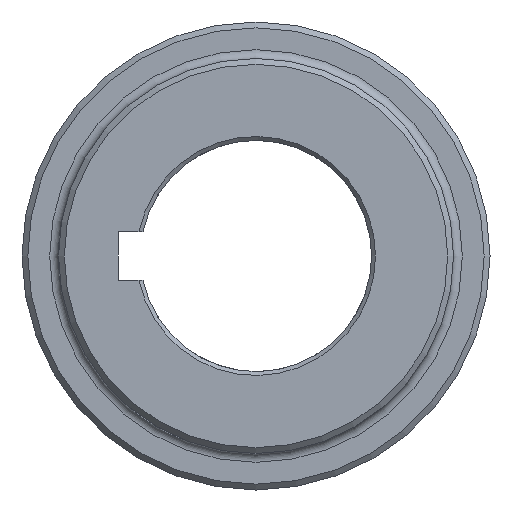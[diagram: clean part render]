
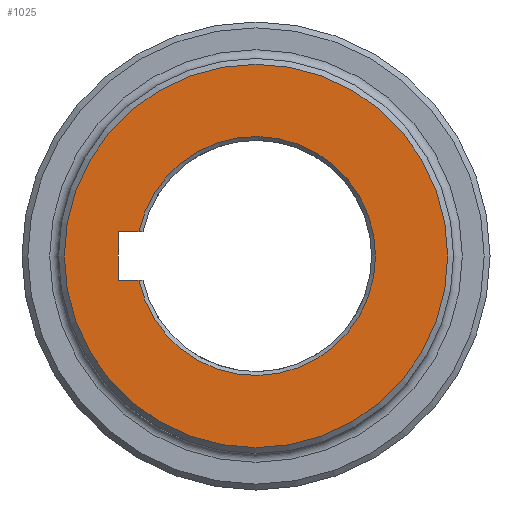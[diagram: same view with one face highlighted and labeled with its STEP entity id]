
A CAD part, left-side view. The second image highlights one B-rep face of the part: STEP entity #1025.
In plain terms, the highlighted planar face has unit normal (-1, 0, 0).
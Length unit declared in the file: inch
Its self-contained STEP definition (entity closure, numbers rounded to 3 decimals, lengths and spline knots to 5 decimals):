
#16 = CIRCLE ( 'NONE', #1112, 1.2279 ) ;
#18 = DIRECTION ( 'NONE',  ( 0., 0., -1. ) ) ;
#24 = DIRECTION ( 'NONE',  ( -1., 0., 0. ) ) ;
#208 = CARTESIAN_POINT ( 'NONE',  ( 0., 1.4151, 0.25 ) ) ;
#214 = CARTESIAN_POINT ( 'NONE',  ( 0., 0., -0.25 ) ) ;
#265 = AXIS2_PLACEMENT_3D ( 'NONE', #1363, #24, #1213 ) ;
#342 = ORIENTED_EDGE ( 'NONE', *, *, #627, .T. ) ;
#346 = EDGE_LOOP ( 'NONE', ( #2389 ) ) ;
#469 = DIRECTION ( 'NONE',  ( 1., 0., 0. ) ) ;
#511 = VERTEX_POINT ( 'NONE', #2477 ) ;
#541 = DIRECTION ( 'NONE',  ( 0., 0., -1. ) ) ;
#627 = EDGE_CURVE ( 'NONE', #2626, #1017, #16, .T. ) ;
#650 = LINE ( 'NONE', #2387, #2867 ) ;
#673 = ORIENTED_EDGE ( 'NONE', *, *, #816, .F. ) ;
#685 = DIRECTION ( 'NONE',  ( 0., -1., 0. ) ) ;
#766 = ORIENTED_EDGE ( 'NONE', *, *, #1546, .F. ) ;
#795 = CIRCLE ( 'NONE', #265, 1.97 ) ;
#816 = EDGE_CURVE ( 'NONE', #1590, #1017, #831, .T. ) ;
#831 = LINE ( 'NONE', #214, #2272 ) ;
#846 = FACE_OUTER_BOUND ( 'NONE', #346, .T. ) ;
#954 = DIRECTION ( 'NONE',  ( 0., 1., 0. ) ) ;
#990 = CARTESIAN_POINT ( 'NONE',  ( 0., 1.20218, -0.25 ) ) ;
#1017 = VERTEX_POINT ( 'NONE', #990 ) ;
#1025 = ADVANCED_FACE ( 'NONE', ( #846, #2941 ), #1854, .F. ) ;
#1076 = CARTESIAN_POINT ( 'NONE',  ( 0., 1.20218, 0.25 ) ) ;
#1112 = AXIS2_PLACEMENT_3D ( 'NONE', #1815, #469, #2286 ) ;
#1213 = DIRECTION ( 'NONE',  ( 0., 0., -1. ) ) ;
#1363 = CARTESIAN_POINT ( 'NONE',  ( 0., 0., 0. ) ) ;
#1498 = CARTESIAN_POINT ( 'NONE',  ( 0., 1.4151, -0.25 ) ) ;
#1546 = EDGE_CURVE ( 'NONE', #2558, #1590, #2026, .T. ) ;
#1590 = VERTEX_POINT ( 'NONE', #1498 ) ;
#1613 = DIRECTION ( 'NONE',  ( 1., 0., 0. ) ) ;
#1694 = EDGE_CURVE ( 'NONE', #2626, #2558, #650, .T. ) ;
#1815 = CARTESIAN_POINT ( 'NONE',  ( 0., 0., 0. ) ) ;
#1854 = PLANE ( 'NONE',  #2248 ) ;
#2026 = LINE ( 'NONE', #2931, #2381 ) ;
#2053 = ORIENTED_EDGE ( 'NONE', *, *, #1694, .F. ) ;
#2248 = AXIS2_PLACEMENT_3D ( 'NONE', #2325, #1613, #18 ) ;
#2272 = VECTOR ( 'NONE', #685, 39.37008 ) ;
#2286 = DIRECTION ( 'NONE',  ( 0., 0., -1. ) ) ;
#2325 = CARTESIAN_POINT ( 'NONE',  ( 0., 0., 0. ) ) ;
#2381 = VECTOR ( 'NONE', #541, 39.37008 ) ;
#2387 = CARTESIAN_POINT ( 'NONE',  ( 0., 0., 0.25 ) ) ;
#2389 = ORIENTED_EDGE ( 'NONE', *, *, #2557, .T. ) ;
#2477 = CARTESIAN_POINT ( 'NONE',  ( 0., 0., -1.97 ) ) ;
#2557 = EDGE_CURVE ( 'NONE', #511, #511, #795, .T. ) ;
#2558 = VERTEX_POINT ( 'NONE', #208 ) ;
#2626 = VERTEX_POINT ( 'NONE', #1076 ) ;
#2867 = VECTOR ( 'NONE', #954, 39.37008 ) ;
#2931 = CARTESIAN_POINT ( 'NONE',  ( 0., 1.4151, -0.25 ) ) ;
#2941 = FACE_BOUND ( 'NONE', #3002, .T. ) ;
#3002 = EDGE_LOOP ( 'NONE', ( #2053, #342, #673, #766 ) ) ;
